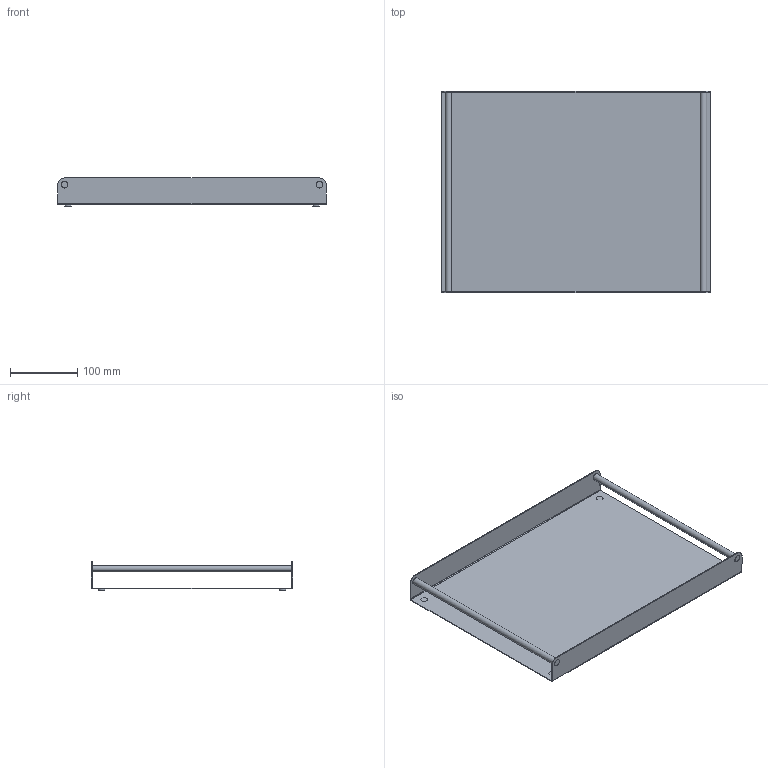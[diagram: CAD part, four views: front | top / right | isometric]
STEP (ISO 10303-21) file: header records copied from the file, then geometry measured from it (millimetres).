
FILE_DESCRIPTION (( 'STEP AP203' ), '1' );
FILE_NAME ('Taca dekoracyjna RESOLA.STEP', '2022-07-27T08:33:02', ( '' ), ( '' ), 'SwSTEP 2.0', 'SolidWorks 2021', '' );
FILE_SCHEMA (( 'CONFIG_CONTROL_DESIGN' ));
Length unit declared in the file: millimetre
Products named in the file (1): Taca dekoracyjna RESOLA
Bounding box: 400 x 300 x 42 mm (x, y, z)
Volume: 198024.5 mm3; surface area: 321624 mm2
Topology: 3 solids, 3 shells, 54 faces, 116 edges, 72 vertices
Faces by surface type: cylinder 28, plane 26
Entity records: 1557 total; most frequent: DIRECTION 282, CARTESIAN_POINT 243, ORIENTED_EDGE 232, EDGE_CURVE 116, AXIS2_PLACEMENT_3D 111, VERTEX_POINT 72, EDGE_LOOP 66, VECTOR 60
